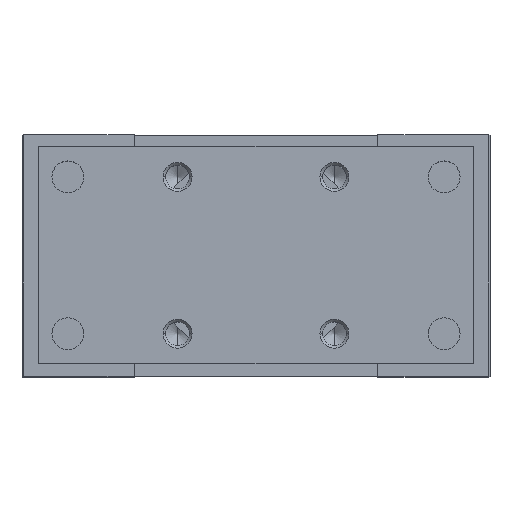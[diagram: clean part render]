
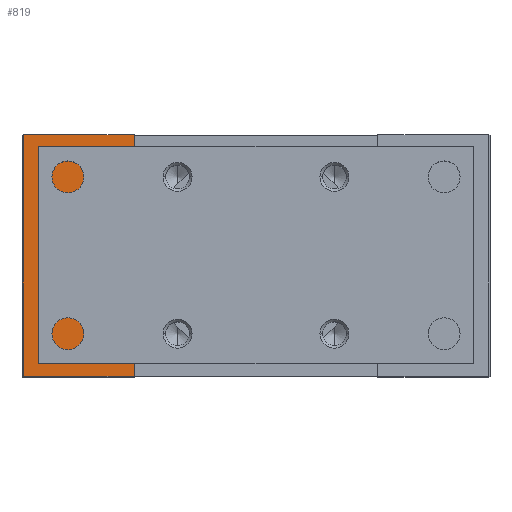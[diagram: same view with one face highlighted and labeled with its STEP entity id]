
A CAD part, top view. The second image highlights one B-rep face of the part: STEP entity #819.
In plain terms, the highlighted planar face has unit normal (0, 0, 1).
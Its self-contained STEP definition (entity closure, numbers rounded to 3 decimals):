
#11 = VERTEX_POINT ( 'NONE', #1780 ) ;
#35 = AXIS2_PLACEMENT_3D ( 'NONE', #7599, #10193, #8455 ) ;
#89 = EDGE_CURVE ( 'NONE', #571, #5347, #9419, .T. ) ;
#571 = VERTEX_POINT ( 'NONE', #7921 ) ;
#659 = VECTOR ( 'NONE', #9527, 1000. ) ;
#720 = LINE ( 'NONE', #9164, #9603 ) ;
#747 = VERTEX_POINT ( 'NONE', #2274 ) ;
#819 = ADVANCED_FACE ( 'NONE', ( #5139, #10477 ), #10265, .F. ) ;
#1253 = VECTOR ( 'NONE', #1833, 1000. ) ;
#1411 = DIRECTION ( 'NONE',  ( 0., -1., 0. ) ) ;
#1452 = VECTOR ( 'NONE', #9456, 1000. ) ;
#1780 = CARTESIAN_POINT ( 'NONE',  ( -31., 0., 49. ) ) ;
#1833 = DIRECTION ( 'NONE',  ( 0., -1., 0. ) ) ;
#1872 = CARTESIAN_POINT ( 'NONE',  ( -48.5, 25., 49. ) ) ;
#2181 = ORIENTED_EDGE ( 'NONE', *, *, #3401, .F. ) ;
#2274 = CARTESIAN_POINT ( 'NONE',  ( -48.2, 25., 49. ) ) ;
#2423 = ORIENTED_EDGE ( 'NONE', *, *, #6378, .F. ) ;
#3401 = EDGE_CURVE ( 'NONE', #4965, #11, #10312, .T. ) ;
#3417 = EDGE_CURVE ( 'NONE', #747, #571, #720, .T. ) ;
#3502 = AXIS2_PLACEMENT_3D ( 'NONE', #5235, #6835, #5298 ) ;
#3523 = LINE ( 'NONE', #6928, #1253 ) ;
#4219 = DIRECTION ( 'NONE',  ( 0., 0., 1. ) ) ;
#4388 = VERTEX_POINT ( 'NONE', #6058 ) ;
#4947 = EDGE_CURVE ( 'NONE', #4388, #5347, #3523, .T. ) ;
#4965 = VERTEX_POINT ( 'NONE', #9576 ) ;
#5139 = FACE_OUTER_BOUND ( 'NONE', #10279, .T. ) ;
#5235 = CARTESIAN_POINT ( 'NONE',  ( -48.5, 25., 49. ) ) ;
#5292 = CIRCLE ( 'NONE', #35, 6. ) ;
#5298 = DIRECTION ( 'NONE',  ( 0., -1., 0. ) ) ;
#5347 = VERTEX_POINT ( 'NONE', #10351 ) ;
#6058 = CARTESIAN_POINT ( 'NONE',  ( -25.25, 25., 49. ) ) ;
#6165 = LINE ( 'NONE', #1872, #1452 ) ;
#6378 = EDGE_CURVE ( 'NONE', #11, #4965, #5292, .T. ) ;
#6579 = ORIENTED_EDGE ( 'NONE', *, *, #4947, .F. ) ;
#6779 = CARTESIAN_POINT ( 'NONE',  ( -37., 0., 49. ) ) ;
#6835 = DIRECTION ( 'NONE',  ( 0., 0., -1. ) ) ;
#6905 = ORIENTED_EDGE ( 'NONE', *, *, #89, .T. ) ;
#6928 = CARTESIAN_POINT ( 'NONE',  ( -25.25, 25., 49. ) ) ;
#6955 = EDGE_CURVE ( 'NONE', #747, #4388, #6165, .T. ) ;
#7238 = EDGE_LOOP ( 'NONE', ( #2181, #2423 ) ) ;
#7599 = CARTESIAN_POINT ( 'NONE',  ( -37., 0., 49. ) ) ;
#7669 = CARTESIAN_POINT ( 'NONE',  ( -48.5, -25., 49. ) ) ;
#7921 = CARTESIAN_POINT ( 'NONE',  ( -48.2, -25., 49. ) ) ;
#8167 = AXIS2_PLACEMENT_3D ( 'NONE', #6779, #4219, #10053 ) ;
#8455 = DIRECTION ( 'NONE',  ( 1., 0., 0. ) ) ;
#9164 = CARTESIAN_POINT ( 'NONE',  ( -48.2, 50., 49. ) ) ;
#9419 = LINE ( 'NONE', #7669, #659 ) ;
#9456 = DIRECTION ( 'NONE',  ( 1., 0., 0. ) ) ;
#9527 = DIRECTION ( 'NONE',  ( 1., 0., 0. ) ) ;
#9576 = CARTESIAN_POINT ( 'NONE',  ( -43., 0., 49. ) ) ;
#9603 = VECTOR ( 'NONE', #1411, 1000. ) ;
#10053 = DIRECTION ( 'NONE',  ( 1., 0., 0. ) ) ;
#10193 = DIRECTION ( 'NONE',  ( 0., 0., 1. ) ) ;
#10265 = PLANE ( 'NONE',  #3502 ) ;
#10279 = EDGE_LOOP ( 'NONE', ( #11107, #11111, #6905, #6579 ) ) ;
#10312 = CIRCLE ( 'NONE', #8167, 6. ) ;
#10351 = CARTESIAN_POINT ( 'NONE',  ( -25.25, -25., 49. ) ) ;
#10477 = FACE_BOUND ( 'NONE', #7238, .T. ) ;
#11107 = ORIENTED_EDGE ( 'NONE', *, *, #6955, .F. ) ;
#11111 = ORIENTED_EDGE ( 'NONE', *, *, #3417, .T. ) ;
